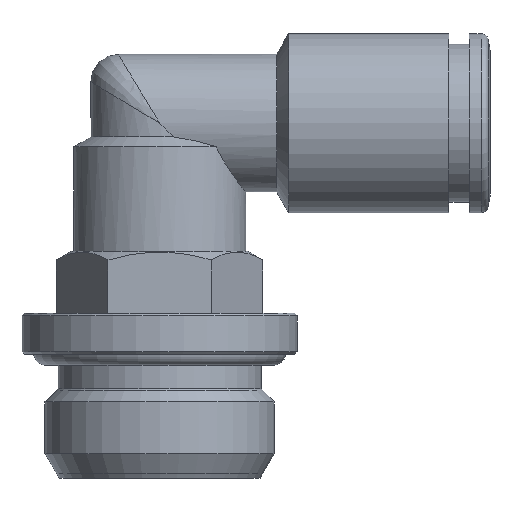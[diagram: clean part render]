
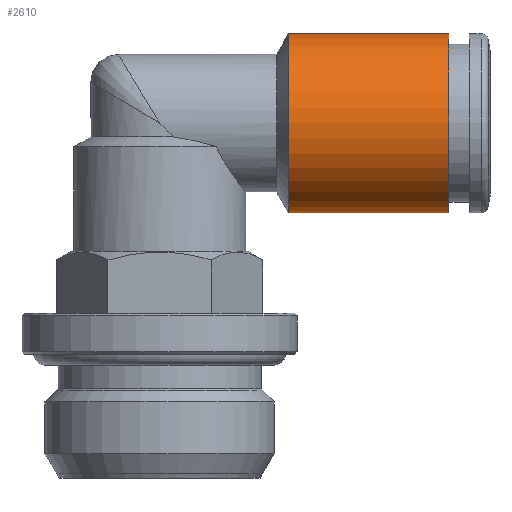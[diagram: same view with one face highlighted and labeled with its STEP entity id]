
A CAD part, front view. The second image highlights one B-rep face of the part: STEP entity #2610.
In plain terms, the highlighted cylindrical face has radius 6.5 mm (diameter 13 mm), a full revolution.
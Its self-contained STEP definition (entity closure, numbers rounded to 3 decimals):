
#2610=ADVANCED_FACE('', (#2620,#2630), #2640, .T.);
#7590=AXIS2_PLACEMENT_3D('Ax2Pl3d', #7600, #7610, #7620);
#8550=AXIS2_PLACEMENT_3D('Ax2Pl3d', #8560, #8570, #8580);
#8590=AXIS2_PLACEMENT_3D('Ax2Pl3d', #8600, #8610, #8620);
#7600=CARTESIAN_POINT('HicPkt', (37.696,13.281,
31.522));
#40360=CARTESIAN_POINT('', (37.696,13.281,38.022));
#8560=CARTESIAN_POINT('HicPkt', (26.062,13.281,
31.522));
#40500=CARTESIAN_POINT('', (26.062,13.281,38.022));
#8600=CARTESIAN_POINT('HicPkt', (26.062,13.281,
31.522));
#41120=CIRCLE('Circle', #7590, 6.5);
#41220=CIRCLE('Circle', #8550, 6.5);
#2640=CYLINDRICAL_SURFACE('Zyl', #8590, 6.5);
#7610=DIRECTION('Axis', (-1.,0.,0.))
;
#7620=DIRECTION('RefDirection', (0.,
0.,-1.));
#8570=DIRECTION('Axis', (-1.,0.,0.))
;
#8580=DIRECTION('RefDirection', (0.,
0.,-1.));
#8610=DIRECTION('Axis', (1.,0.,0.));
#8620=DIRECTION('RefDirection', (0.,0.,-1.));
#45990=EDGE_CURVE('', #46000, #46000, #41120, .T.);
#46370=EDGE_CURVE('', #46380, #46380, #41220, .T.);
#49610=EDGE_LOOP('Edge_loop', (#49620));
#49630=EDGE_LOOP('Edge_loop', (#49640));
#2630=FACE_BOUND('', #49630, .T.);
#2620=FACE_OUTER_BOUND('Face_outer_bound', #49610, .T.);
#49620=ORIENTED_EDGE('', *, *, #45990, .T.);
#49640=ORIENTED_EDGE('', *, *, #46370, .F.);
#46000=VERTEX_POINT('', #40360);
#46380=VERTEX_POINT('', #40500);
